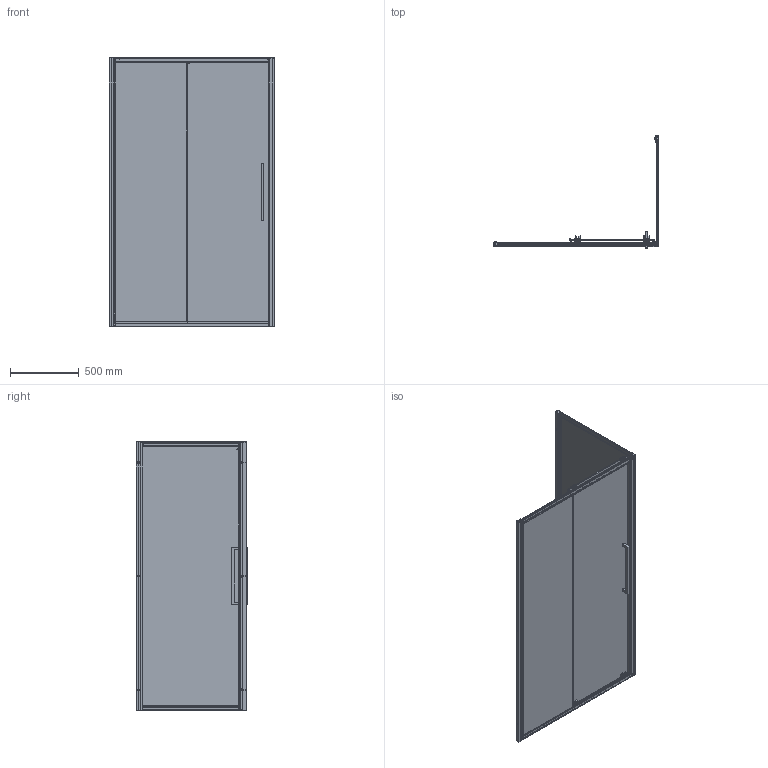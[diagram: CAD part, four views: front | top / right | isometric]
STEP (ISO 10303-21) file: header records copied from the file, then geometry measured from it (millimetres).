
FILE_DESCRIPTION((''),'2;1');
FILE_NAME('00-L617021_ASM','2022-06-07T16:32:12',('M'),(''),'CREO PARAMETRIC BY PTC INC, 2017110','CREO PARAMETRIC BY PTC INC, 2017110','');
FILE_SCHEMA(('CONFIG_CONTROL_DESIGN'));
Length unit declared in the file: millimetre
Products named in the file (43): 00; DBT_ST4X20; YTZG_ST4X10; 28Z05-1-; 28Z05-2-; 001_ASM; 003; 0005; 005; 100; 005_ASM; 001; 0054; 000; _0003; 0020; 0032; 0057; _AF_ASM; _0004; 0021; _A_ASM; 10001; 0031_ASM; 0040; 0025; 0027; 0035; 1-N000; _N1000; _N0001; YTZG_ST4X12; 00-L617021_ASM
Assembly tree (79 placements, depth 5):
  00-L617021_ASM
    001_ASM
      00
      00
      DBT_ST4X20  x4
      001_ASM  x3
        YTZG_ST4X10
        28Z05-1-
        28Z05-2-
    00
    003
    0005
    005_ASM
      005
      100
      DBT_ST4X20  x6
      001_ASM  x3
        YTZG_ST4X10
        28Z05-1-
        28Z05-2-
    005_ASM
      001_ASM
        00
        00
        DBT_ST4X20  x4
        001_ASM  x3
          YTZG_ST4X10
          28Z05-1-
          28Z05-2-
      001
      0054  x2
    0031_ASM
      000
      _AF_ASM
        _0003
        00
        0020
        0032
        00
        00
        0057
      _AF_ASM
        _0003
        00
        0020
        0032
        00
        00
        0057
      _A_ASM
        _0004
        0021
        00
        0032
      _A_ASM
        _0004
        0021
        00
        0032
      10001
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Bounding box: 1200.7 x 811.4 x 1953 mm (x, y, z)
Volume: 36831454.2 mm3; surface area: 10788836.8 mm2
Topology: 94 solids, 94 shells, 3588 faces, 9001 edges, 5629 vertices
Faces by surface type: cylinder 1401, plane 1233, bspline 490, torus 233, cone 139, sphere 92
Entity records: 43537 total; most frequent: CARTESIAN_POINT 16996, DIRECTION 5476, ORIENTED_EDGE 5268, EDGE_CURVE 2634, AXIS2_PLACEMENT_3D 1919, VERTEX_POINT 1687, VECTOR 1638, LINE 1638
